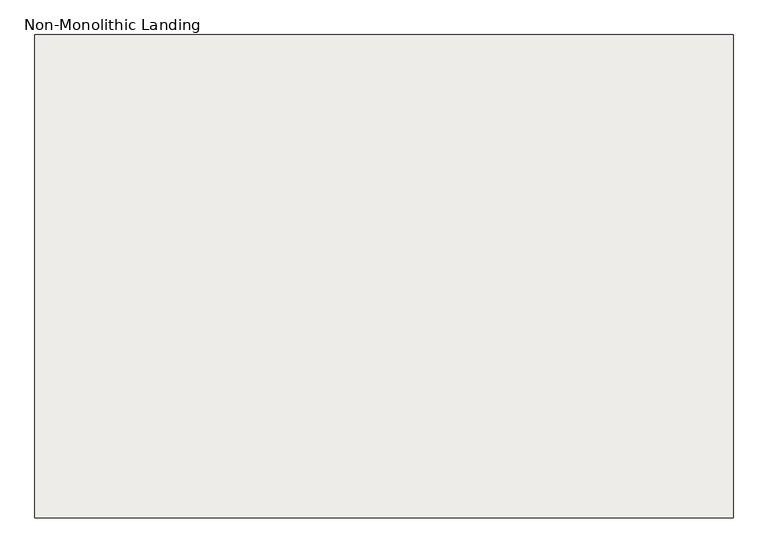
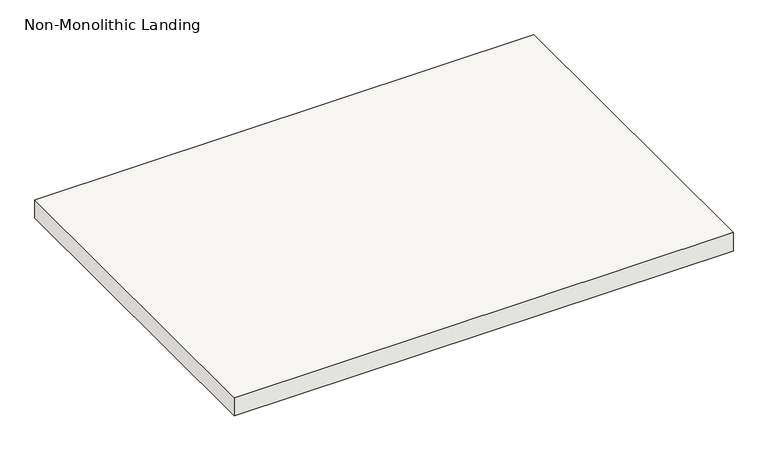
"""IFC4 building model written with IfcOpenShell, lengths in millimetres: slab geometry, Non-Monolithic Landing."""

from ifc_helpers import new_model, si_unit, frame, origin, place, context, project, spatial, polyline, outline, extrude, source, transform, mapped, element, save


def non_monolithic_landing_90918b11(model_context):
    return source(origin(), model_context, "Body", "SweptSolid", [
        extrude(outline(polyline([(161506.2211992, -17945.4846057), (162827.0211992, -17945.4846057), (162827.0211992, -18859.8846057), (161506.2211992, -18859.8846057), (161506.2211992, -17945.4846057)])), frame((0.0, 0.0, 2126.3428571), z_axis=(0.0, 0.0, 1.0), x_axis=(1.0, 0.0, 0.0)), (0.0, 0.0, 1.0), 50.8),
    ])


if __name__ == "__main__":
    model = new_model("IFC4")
    model_context = context("Model", 3, world=origin())
    ifc_project = project(units=[si_unit("LENGTHUNIT", "METRE", prefix="MILLI")], contexts=[model_context])
    site = spatial("IfcSite", under=ifc_project)
    building = spatial("IfcBuilding", under=site)
    placement = place(None, origin())
    non_monolithic_landing_shape = non_monolithic_landing_90918b11(model_context)
    element("IfcSlab", 1, ObjectType="Non-Monolithic Landing", at=placement, inside=building, context=model_context, shape_type="MappedRepresentation", body=[
        mapped(non_monolithic_landing_shape, transform((0.0, 0.0, 0.0), x_axis=(1.0, 0.0, 0.0), y_axis=(0.0, 1.0, 0.0), z_axis=(0.0, 0.0, 1.0))),
    ])
    save(model, "model.ifc")
